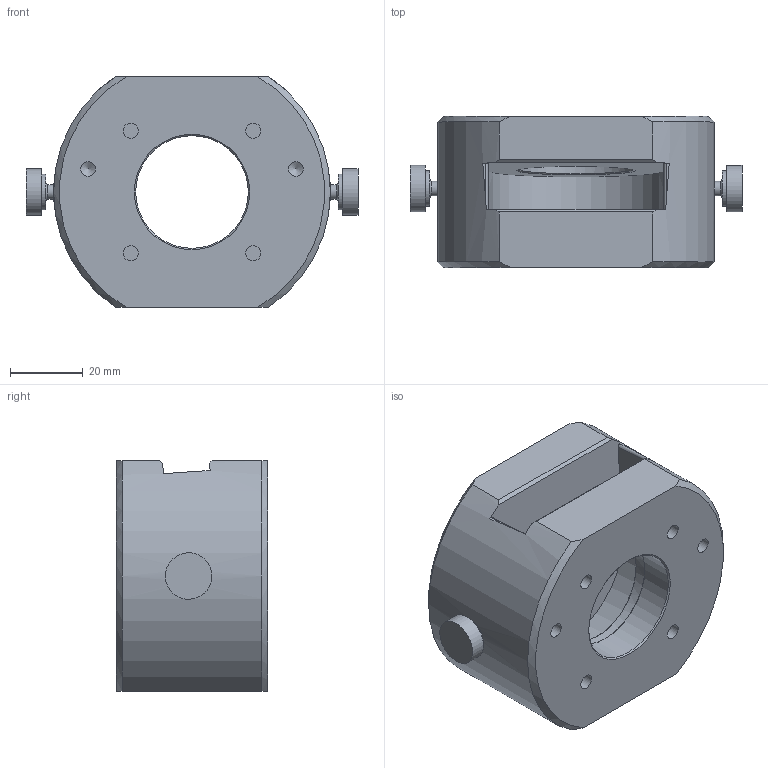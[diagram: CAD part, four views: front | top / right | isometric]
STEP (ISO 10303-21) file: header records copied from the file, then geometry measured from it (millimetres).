
FILE_DESCRIPTION (( 'STEP AP214' ), '1' );
FILE_NAME ('PCH-25-4.STEP', '2024-02-28T22:38:15', ( '' ), ( '' ), 'SwSTEP 2.0', 'SolidWorks 2023', '' );
FILE_SCHEMA (( 'AUTOMOTIVE_DESIGN' ));
Length unit declared in the file: inch
Products named in the file (1): PCH-25-4
Bounding box: 91.39 x 41.66 x 63.5 mm (x, y, z)
Volume: 119742.2 mm3; surface area: 30129.6 mm2
Topology: 1 solids, 11 shells, 264 faces, 637 edges, 417 vertices
Faces by surface type: cylinder 113, plane 101, cone 36, torus 12, bspline 2
Full cylindrical faces by diameter (mm): 3.3 x6, 4 x8, 4.039 x2, 4.089 x4, 4.2 x10, 4.216 x4, 6.8 x4, 7 x2, 7.137 x4, 9.87 x2, 12.8 x2, 30.988 x2, 32.004 x2
Entity records: 8439 total; most frequent: CARTESIAN_POINT 2761, DIRECTION 1224, ORIENTED_EDGE 1012, AXIS2_PLACEMENT_3D 507, EDGE_CURVE 506, EDGE_LOOP 388, VERTEX_POINT 376, FACE_OUTER_BOUND 330
